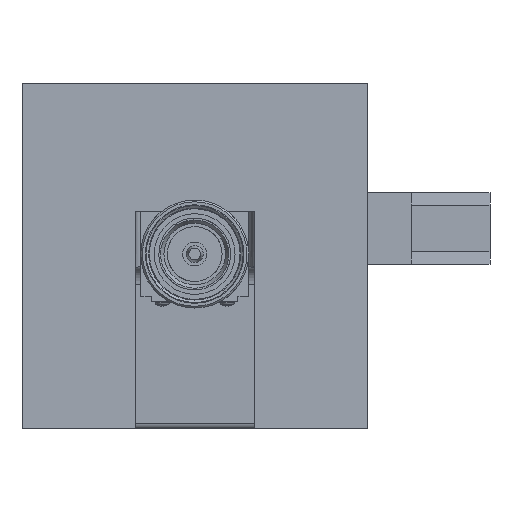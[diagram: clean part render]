
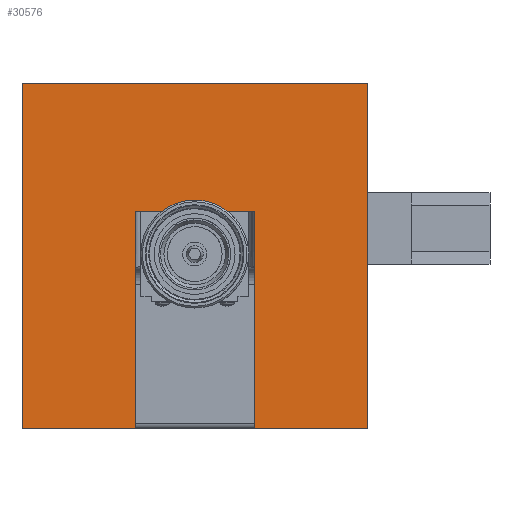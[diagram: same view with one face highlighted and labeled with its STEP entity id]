
A CAD part, front view. The second image highlights one B-rep face of the part: STEP entity #30576.
In plain terms, the highlighted planar face has unit normal (0, -1, 0).
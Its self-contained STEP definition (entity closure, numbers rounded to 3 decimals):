
#852=LINE('',#39535,#2814);
#922=LINE('',#39884,#2884);
#1002=LINE('',#40138,#2964);
#1005=LINE('',#40144,#2967);
#1006=LINE('',#40147,#2968);
#1007=LINE('',#40148,#2969);
#1008=LINE('',#40150,#2970);
#1009=LINE('',#40151,#2971);
#2814=VECTOR('',#33796,1000.);
#2884=VECTOR('',#34016,1000.);
#2964=VECTOR('',#34272,1000.);
#2967=VECTOR('',#34277,1000.);
#2968=VECTOR('',#34278,1000.);
#2969=VECTOR('',#34279,1000.);
#2970=VECTOR('',#34280,1000.);
#2971=VECTOR('',#34281,1000.);
#4778=PLANE('',#31988);
#6319=ORIENTED_EDGE('',*,*,#12709,.T.);
#6320=ORIENTED_EDGE('',*,*,#12710,.T.);
#6321=ORIENTED_EDGE('',*,*,#12706,.T.);
#6322=ORIENTED_EDGE('',*,*,#12711,.F.);
#6323=ORIENTED_EDGE('',*,*,#12712,.F.);
#6324=ORIENTED_EDGE('',*,*,#12584,.T.);
#6325=ORIENTED_EDGE('',*,*,#12439,.T.);
#6326=ORIENTED_EDGE('',*,*,#12713,.T.);
#12439=EDGE_CURVE('',#15689,#15688,#852,.T.);
#12584=EDGE_CURVE('',#15828,#15689,#922,.T.);
#12706=EDGE_CURVE('',#15900,#15901,#1002,.T.);
#12709=EDGE_CURVE('',#15902,#15903,#1005,.T.);
#12710=EDGE_CURVE('',#15903,#15900,#1006,.T.);
#12711=EDGE_CURVE('',#15904,#15901,#1007,.T.);
#12712=EDGE_CURVE('',#15828,#15904,#1008,.T.);
#12713=EDGE_CURVE('',#15688,#15902,#1009,.T.);
#15688=VERTEX_POINT('',#39534);
#15689=VERTEX_POINT('',#39536);
#15828=VERTEX_POINT('',#39885);
#15900=VERTEX_POINT('',#40139);
#15901=VERTEX_POINT('',#40140);
#15902=VERTEX_POINT('',#40145);
#15903=VERTEX_POINT('',#40146);
#15904=VERTEX_POINT('',#40149);
#18545=EDGE_LOOP('',(#6319,#6320,#6321,#6322,#6323,#6324,#6325,#6326));
#20062=FACE_BOUND('',#18545,.T.);
#30576=ADVANCED_FACE('',(#20062),#4778,.T.);
#31988=AXIS2_PLACEMENT_3D('',#40143,#34275,#34276);
#33796=DIRECTION('',(1.,0.,0.));
#34016=DIRECTION('',(0.,0.,-1.));
#34272=DIRECTION('',(1.,0.,0.));
#34275=DIRECTION('',(0.,-1.,0.));
#34276=DIRECTION('',(0.,0.,-1.));
#34277=DIRECTION('',(1.,0.,0.));
#34278=DIRECTION('',(0.,0.,-1.));
#34279=DIRECTION('',(0.,0.,-1.));
#34280=DIRECTION('',(1.,0.,0.));
#34281=DIRECTION('',(0.,0.,1.));
#39534=CARTESIAN_POINT('',(-68.263,-27.941,-58.927));
#39535=CARTESIAN_POINT('',(-101.6,-27.941,-58.927));
#39536=CARTESIAN_POINT('',(-101.6,-27.941,-58.927));
#39884=CARTESIAN_POINT('',(-101.6,-27.941,-58.927));
#39885=CARTESIAN_POINT('',(-101.6,-27.941,42.674));
#40138=CARTESIAN_POINT('',(-101.6,-27.941,-58.927));
#40139=CARTESIAN_POINT('',(-33.338,-27.941,-58.927));
#40140=CARTESIAN_POINT('',(0.,-27.941,-58.927));
#40143=CARTESIAN_POINT('',(-101.6,-27.941,-58.927));
#40144=CARTESIAN_POINT('',(-33.338,-27.941,5.082));
#40145=CARTESIAN_POINT('',(-68.263,-27.941,5.082));
#40146=CARTESIAN_POINT('',(-33.338,-27.941,5.082));
#40147=CARTESIAN_POINT('',(-33.338,-27.941,5.082));
#40148=CARTESIAN_POINT('',(0.,-27.941,-58.927));
#40149=CARTESIAN_POINT('',(0.,-27.941,42.674));
#40150=CARTESIAN_POINT('',(-101.6,-27.941,42.674));
#40151=CARTESIAN_POINT('',(-68.263,-27.941,-70.319));
